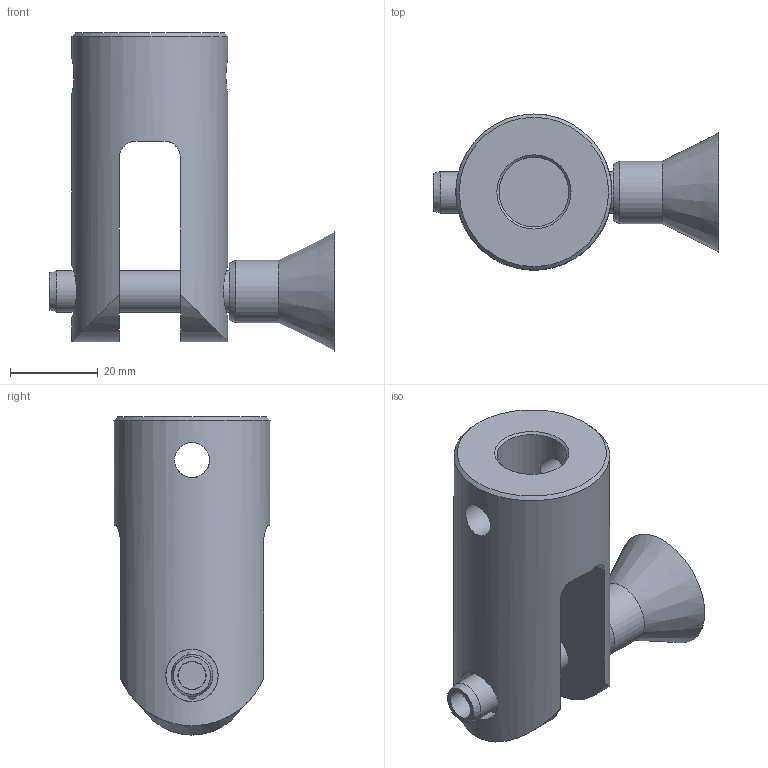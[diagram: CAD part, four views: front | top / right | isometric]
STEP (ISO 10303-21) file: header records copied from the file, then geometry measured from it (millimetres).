
FILE_DESCRIPTION((''),'2;1');
FILE_NAME('F:\CAD files\Itr\3D MARKETING MODELS\GRIPS\G1090\G1090.stp','2017-04-20T12:32:46',('mlampen'),(''),'Autodesk Inventor 2010','Autodesk Inventor 2010','');
FILE_SCHEMA(('AUTOMOTIVE_DESIGN { 1 0 10303 214 1 1 1 1 }'));
Length unit declared in the file: inch
Products named in the file (3): Assembly1; Part2; Part4
Assembly tree (2 placements, depth 2):
  Assembly1
    Part2
    Part4
Bounding box: 65.15 x 35.56 x 72.52 mm (x, y, z)
Volume: 46830.1 mm3; surface area: 19054.1 mm2
Topology: 5 solids, 5 shells, 47 faces, 113 edges, 81 vertices
Faces by surface type: cylinder 19, plane 15, cone 7, sphere 6
Full cylindrical faces by diameter (mm): 2.381 x1, 6.28 x1, 6.432 x1, 8.001 x2, 9.487 x1, 9.525 x2, 9.906 x1, 10.058 x1, 11.938 x2, 14.224 x1, 15.9 x1, 35.56 x1
Entity records: 1722 total; most frequent: CARTESIAN_POINT 694, DIRECTION 186, ORIENTED_EDGE 146, EDGE_LOOP 96, AXIS2_PLACEMENT_3D 89, EDGE_CURVE 73, VERTEX_POINT 69, FACE_BOUND 49
